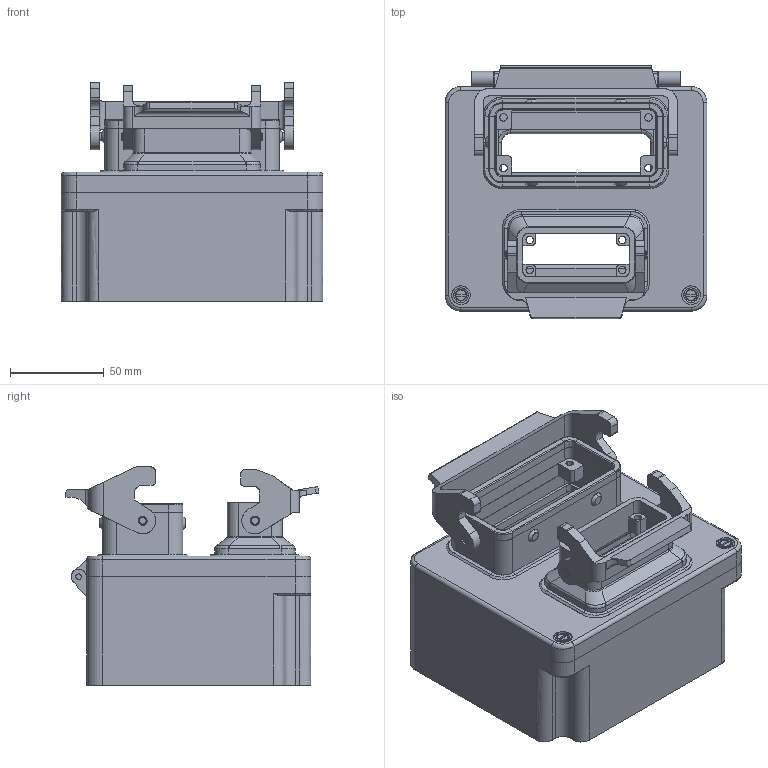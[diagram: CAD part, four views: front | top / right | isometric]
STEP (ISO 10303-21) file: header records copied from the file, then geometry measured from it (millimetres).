
FILE_DESCRIPTION( ( 'STEP AP214' ), '1' );
FILE_NAME( 'C:/Dokumente und Einstellungen/Administrator/Desktop/47 Kabelboxen/G3/6/gr_3_16e_10a-bb.stp', '2006-09-10T17:13:23', ( ' ' ), ( ' ' ), 'XStep 1.0', 'VISICAD', ' ' );
FILE_SCHEMA( ( 'automotive_design' ) );
Length unit declared in the file: millimetre
Products named in the file (1098): 1; 2; 3; 4; 5; 6; 7; 8; 9; 10; 11; 12; 13; 14; 15; 16; 17; 18; 19; 20; 21; 22; 23; 24; 25; 26; 27; 28; 29; 30; 31; 32; 33; 34; 35; 36; 37; 38; 39; 40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
Bounding box: 140 x 135.72 x 116.7 mm (x, y, z)
Surface area: 171697.9 mm2 (no closed solid volume)
Topology: 0 solids, 1108 shells, 1108 faces, 5609 edges, 5609 vertices
Faces by surface type: plane 485, bspline 436, revolution 142, cylinder 45
Entity records: 123456 total; most frequent: CARTESIAN_POINT 58466, DIRECTION 7256, ORIENTED_EDGE 5609, EDGE_CURVE 5609, VERTEX_POINT 5609, LINE 3024, VECTOR 3024, B_SPLINE_CURVE_WITH_KNOTS 2294
